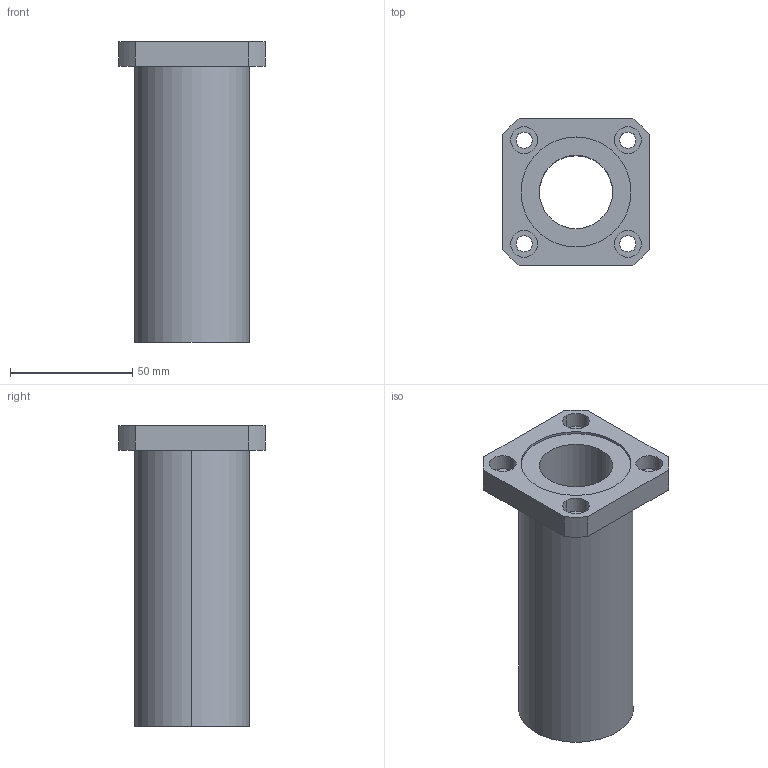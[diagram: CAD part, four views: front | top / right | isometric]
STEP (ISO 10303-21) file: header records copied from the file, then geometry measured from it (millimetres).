
FILE_DESCRIPTION((''),'2;1');
FILE_NAME('C:\Documents and Settings\ｿﾀﾀ蠑ｷ1\ｹﾙﾅﾁ ﾈｭｸ饅\ｺﾎﾇｰﾆﾄﾀﾏ\ﾁｦﾇｰ\LMEK__LUU\LMEK30LUU.stp','2005-06-15T11:02:11',('ｿﾀﾀ蠑ｷ1'),(''),'Autodesk Inventor 9','Autodesk Inventor 9','');
FILE_SCHEMA(('AUTOMOTIVE_DESIGN { 1 0 10303 214 1 1 1 1 }'));
Length unit declared in the file: millimetre
Products named in the file (1): LMEK__(L)
Bounding box: 60 x 60 x 123 mm (x, y, z)
Volume: 139571.2 mm3; surface area: 37154 mm2
Topology: 1 solids, 1 shells, 41 faces, 96 edges, 64 vertices
Faces by surface type: bspline 20, cylinder 12, plane 9
Entity records: 1457 total; most frequent: CARTESIAN_POINT 486, DIRECTION 196, ORIENTED_EDGE 192, EDGE_CURVE 96, AXIS2_PLACEMENT_3D 78, VERTEX_POINT 64, EDGE_LOOP 58, CIRCLE 56
